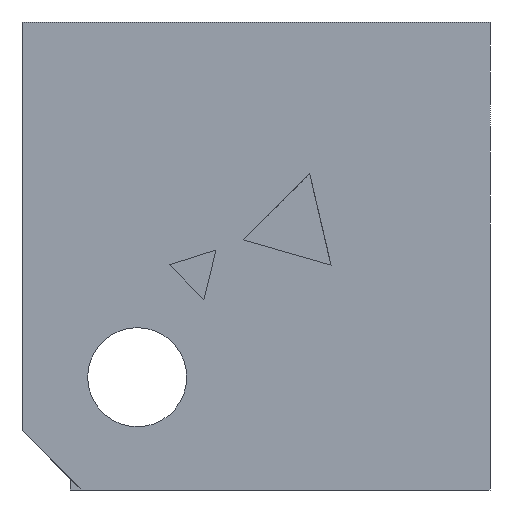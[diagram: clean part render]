
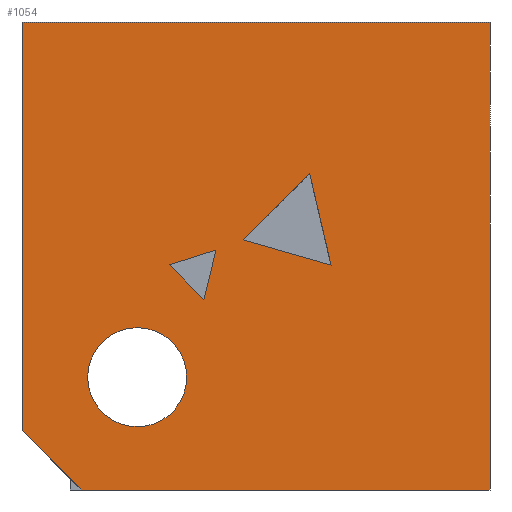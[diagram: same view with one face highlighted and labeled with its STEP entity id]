
A CAD part, left-side view. The second image highlights one B-rep face of the part: STEP entity #1054.
In plain terms, the highlighted planar face has unit normal (-1, 0, 0).
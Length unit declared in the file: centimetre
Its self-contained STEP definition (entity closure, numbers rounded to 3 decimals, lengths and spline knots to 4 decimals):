
#25 = VECTOR ( 'NONE', #669, 100. ) ;
#32 = EDGE_CURVE ( 'NONE', #955, #100, #114, .T. ) ;
#38 = LINE ( 'NONE', #741, #513 ) ;
#83 = LINE ( 'NONE', #430, #224 ) ;
#92 = ORIENTED_EDGE ( 'NONE', *, *, #211, .F. ) ;
#93 = CARTESIAN_POINT ( 'NONE',  ( 0., 585.6059, 512.6424 ) ) ;
#100 = VERTEX_POINT ( 'NONE', #500 ) ;
#114 = LINE ( 'NONE', #1359, #118 ) ;
#118 = VECTOR ( 'NONE', #574, 100. ) ;
#127 = VERTEX_POINT ( 'NONE', #884 ) ;
#186 = DIRECTION ( 'NONE',  ( 0., 0., -1. ) ) ;
#211 = EDGE_CURVE ( 'NONE', #100, #1395, #1228, .T. ) ;
#224 = VECTOR ( 'NONE', #1001, 100. ) ;
#235 = VERTEX_POINT ( 'NONE', #996 ) ;
#250 = VERTEX_POINT ( 'NONE', #528 ) ;
#285 = DIRECTION ( 'NONE',  ( 0., -1., 0. ) ) ;
#292 = VECTOR ( 'NONE', #931, 100. ) ;
#296 = ORIENTED_EDGE ( 'NONE', *, *, #1176, .T. ) ;
#304 = EDGE_CURVE ( 'NONE', #235, #315, #889, .T. ) ;
#315 = VERTEX_POINT ( 'NONE', #970 ) ;
#324 = EDGE_CURVE ( 'NONE', #498, #235, #1436, .T. ) ;
#348 = AXIS2_PLACEMENT_3D ( 'NONE', #873, #628, #186 ) ;
#379 = ORIENTED_EDGE ( 'NONE', *, *, #837, .F. ) ;
#395 = EDGE_CURVE ( 'NONE', #1193, #1180, #1229, .T. ) ;
#414 = ORIENTED_EDGE ( 'NONE', *, *, #1139, .F. ) ;
#430 = CARTESIAN_POINT ( 'NONE',  ( 0., 1000., 1000. ) ) ;
#455 = EDGE_LOOP ( 'NONE', ( #414, #92, #1458 ) ) ;
#498 = VERTEX_POINT ( 'NONE', #1446 ) ;
#500 = CARTESIAN_POINT ( 'NONE',  ( 0., 527.2476, 534.3624 ) ) ;
#513 = VECTOR ( 'NONE', #851, 100. ) ;
#518 = ORIENTED_EDGE ( 'NONE', *, *, #304, .F. ) ;
#520 = DIRECTION ( 'NONE',  ( 0., 0., -1. ) ) ;
#528 = CARTESIAN_POINT ( 'NONE',  ( 0., 753.863, 346.91 ) ) ;
#542 = FACE_BOUND ( 'NONE', #915, .T. ) ;
#574 = DIRECTION ( 'NONE',  ( 0., 0.707, -0.707 ) ) ;
#589 = EDGE_CURVE ( 'NONE', #898, #1193, #1282, .T. ) ;
#605 = EDGE_LOOP ( 'NONE', ( #1167, #834 ) ) ;
#628 = DIRECTION ( 'NONE',  ( 1., 0., 0. ) ) ;
#638 = CARTESIAN_POINT ( 'NONE',  ( 0., 753.863, 241.0687 ) ) ;
#669 = DIRECTION ( 'NONE',  ( 0., 0.953, -0.302 ) ) ;
#673 = DIRECTION ( 'NONE',  ( 0., 0.707, 0.707 ) ) ;
#698 = CARTESIAN_POINT ( 'NONE',  ( 0., 339.7432, 480.7195 ) ) ;
#702 = ORIENTED_EDGE ( 'NONE', *, *, #324, .F. ) ;
#709 = CARTESIAN_POINT ( 'NONE',  ( 0., 611.3348, 407.6018 ) ) ;
#710 = VERTEX_POINT ( 'NONE', #1261 ) ;
#740 = ORIENTED_EDGE ( 'NONE', *, *, #1206, .F. ) ;
#741 = CARTESIAN_POINT ( 'NONE',  ( 0., 684.9286, 481.1956 ) ) ;
#761 = CARTESIAN_POINT ( 'NONE',  ( 0., 1000., 1000. ) ) ;
#834 = ORIENTED_EDGE ( 'NONE', *, *, #960, .T. ) ;
#836 = CARTESIAN_POINT ( 'NONE',  ( 0., 753.863, 135.2274 ) ) ;
#837 = EDGE_CURVE ( 'NONE', #1180, #898, #38, .T. ) ;
#851 = DIRECTION ( 'NONE',  ( 0., -0.707, -0.707 ) ) ;
#854 = VECTOR ( 'NONE', #1132, 100. ) ;
#863 = DIRECTION ( 'NONE',  ( 0., -0.961, -0.275 ) ) ;
#873 = CARTESIAN_POINT ( 'NONE',  ( 0., 753.863, 241.0687 ) ) ;
#883 = CARTESIAN_POINT ( 'NONE',  ( 0., 385.3387, 676.2713 ) ) ;
#884 = CARTESIAN_POINT ( 'NONE',  ( 0., 1000., 126.4961 ) ) ;
#889 = LINE ( 'NONE', #1353, #1219 ) ;
#893 = DIRECTION ( 'NONE',  ( 0., 0., -1. ) ) ;
#898 = VERTEX_POINT ( 'NONE', #709 ) ;
#900 = CARTESIAN_POINT ( 'NONE',  ( 0., 873.5039, 0. ) ) ;
#915 = EDGE_LOOP ( 'NONE', ( #379, #1428, #942 ) ) ;
#916 = CARTESIAN_POINT ( 'NONE',  ( 0., 1000., 0. ) ) ;
#931 = DIRECTION ( 'NONE',  ( 0., -0.238, 0.971 ) ) ;
#940 = EDGE_CURVE ( 'NONE', #1340, #250, #1149, .T. ) ;
#942 = ORIENTED_EDGE ( 'NONE', *, *, #589, .F. ) ;
#944 = VECTOR ( 'NONE', #1104, 100. ) ;
#955 = VERTEX_POINT ( 'NONE', #883 ) ;
#960 = EDGE_CURVE ( 'NONE', #250, #1340, #1170, .T. ) ;
#967 = AXIS2_PLACEMENT_3D ( 'NONE', #638, #981, #1456 ) ;
#970 = CARTESIAN_POINT ( 'NONE',  ( 0., 0., 0. ) ) ;
#981 = DIRECTION ( 'NONE',  ( 1., 0., 0. ) ) ;
#986 = CARTESIAN_POINT ( 'NONE',  ( 0., 527.2476, 534.3624 ) ) ;
#996 = CARTESIAN_POINT ( 'NONE',  ( 0., 0., 1000. ) ) ;
#1001 = DIRECTION ( 'NONE',  ( 0., 0., -1. ) ) ;
#1010 = FACE_BOUND ( 'NONE', #455, .T. ) ;
#1031 = CARTESIAN_POINT ( 'NONE',  ( 0., 585.6059, 512.6424 ) ) ;
#1054 = ADVANCED_FACE ( 'NONE', ( #542, #1241, #1010, #1350 ), #1137, .F. ) ;
#1069 = VECTOR ( 'NONE', #673, 100. ) ;
#1079 = EDGE_CURVE ( 'NONE', #498, #127, #83, .T. ) ;
#1096 = AXIS2_PLACEMENT_3D ( 'NONE', #761, #1248, #893 ) ;
#1103 = ORIENTED_EDGE ( 'NONE', *, *, #1079, .T. ) ;
#1104 = DIRECTION ( 'NONE',  ( 0., 0.227, 0.974 ) ) ;
#1112 = LINE ( 'NONE', #1130, #944 ) ;
#1130 = CARTESIAN_POINT ( 'NONE',  ( 0., 339.7432, 480.7195 ) ) ;
#1132 = DIRECTION ( 'NONE',  ( 0., -1., 0. ) ) ;
#1137 = PLANE ( 'NONE',  #1096 ) ;
#1138 = LINE ( 'NONE', #916, #854 ) ;
#1139 = EDGE_CURVE ( 'NONE', #1395, #955, #1112, .T. ) ;
#1145 = VECTOR ( 'NONE', #285, 100. ) ;
#1149 = CIRCLE ( 'NONE', #348, 105.8413 ) ;
#1167 = ORIENTED_EDGE ( 'NONE', *, *, #940, .T. ) ;
#1170 = CIRCLE ( 'NONE', #967, 105.8413 ) ;
#1176 = EDGE_CURVE ( 'NONE', #710, #315, #1138, .T. ) ;
#1180 = VERTEX_POINT ( 'NONE', #1267 ) ;
#1193 = VERTEX_POINT ( 'NONE', #1031 ) ;
#1206 = EDGE_CURVE ( 'NONE', #710, #127, #1358, .T. ) ;
#1219 = VECTOR ( 'NONE', #520, 100. ) ;
#1228 = LINE ( 'NONE', #986, #1383 ) ;
#1229 = LINE ( 'NONE', #93, #25 ) ;
#1241 = FACE_BOUND ( 'NONE', #605, .T. ) ;
#1248 = DIRECTION ( 'NONE',  ( 1., 0., 0. ) ) ;
#1261 = CARTESIAN_POINT ( 'NONE',  ( 0., 873.5039, 0. ) ) ;
#1267 = CARTESIAN_POINT ( 'NONE',  ( 0., 684.9286, 481.1956 ) ) ;
#1282 = LINE ( 'NONE', #1397, #292 ) ;
#1326 = CARTESIAN_POINT ( 'NONE',  ( 0., 1000., 1000. ) ) ;
#1340 = VERTEX_POINT ( 'NONE', #836 ) ;
#1350 = FACE_OUTER_BOUND ( 'NONE', #1363, .T. ) ;
#1353 = CARTESIAN_POINT ( 'NONE',  ( 0., 0., 1000. ) ) ;
#1358 = LINE ( 'NONE', #900, #1069 ) ;
#1359 = CARTESIAN_POINT ( 'NONE',  ( 0., 385.3387, 676.2713 ) ) ;
#1363 = EDGE_LOOP ( 'NONE', ( #1103, #740, #296, #518, #702 ) ) ;
#1383 = VECTOR ( 'NONE', #863, 100. ) ;
#1395 = VERTEX_POINT ( 'NONE', #698 ) ;
#1397 = CARTESIAN_POINT ( 'NONE',  ( 0., 611.3348, 407.6018 ) ) ;
#1428 = ORIENTED_EDGE ( 'NONE', *, *, #395, .F. ) ;
#1436 = LINE ( 'NONE', #1326, #1145 ) ;
#1446 = CARTESIAN_POINT ( 'NONE',  ( 0., 1000., 1000. ) ) ;
#1456 = DIRECTION ( 'NONE',  ( 0., 0., -1. ) ) ;
#1458 = ORIENTED_EDGE ( 'NONE', *, *, #32, .F. ) ;
